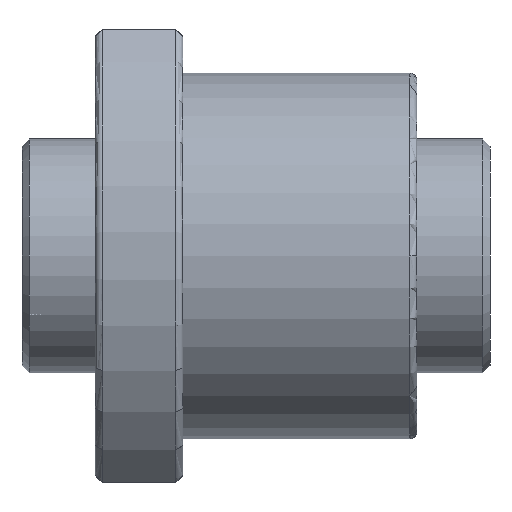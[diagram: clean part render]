
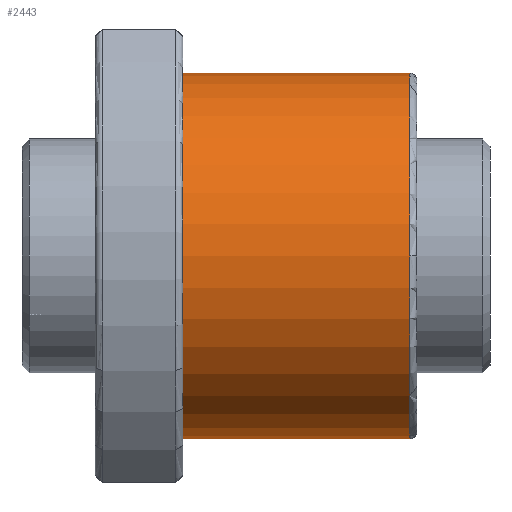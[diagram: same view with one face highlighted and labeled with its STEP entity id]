
A CAD part, front view. The second image highlights one B-rep face of the part: STEP entity #2443.
In plain terms, the highlighted cylindrical face has radius 25 mm (diameter 50 mm), a partial arc.
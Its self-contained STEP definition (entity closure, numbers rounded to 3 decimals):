
#160 = CARTESIAN_POINT ( 'NONE',  ( 12., 0., 25. ) ) ;
#240 = EDGE_CURVE ( 'NONE', #944, #2638, #1557, .T. ) ;
#269 = AXIS2_PLACEMENT_3D ( 'NONE', #4912, #4070, #1077 ) ;
#391 = LINE ( 'NONE', #831, #5341 ) ;
#467 = CIRCLE ( 'NONE', #269, 25. ) ;
#471 = AXIS2_PLACEMENT_3D ( 'NONE', #4168, #3788, #1264 ) ;
#614 = CIRCLE ( 'NONE', #471, 25. ) ;
#646 = DIRECTION ( 'NONE',  ( -1., 0., 0. ) ) ;
#720 = ORIENTED_EDGE ( 'NONE', *, *, #2714, .T. ) ;
#831 = CARTESIAN_POINT ( 'NONE',  ( 44., 0., -25. ) ) ;
#891 = ORIENTED_EDGE ( 'NONE', *, *, #5016, .F. ) ;
#907 = VECTOR ( 'NONE', #646, 1000. ) ;
#944 = VERTEX_POINT ( 'NONE', #1163 ) ;
#992 = DIRECTION ( 'NONE',  ( -1., 0., 0. ) ) ;
#1077 = DIRECTION ( 'NONE',  ( 0., 0., 1. ) ) ;
#1163 = CARTESIAN_POINT ( 'NONE',  ( 12., 0., -25. ) ) ;
#1176 = AXIS2_PLACEMENT_3D ( 'NONE', #1830, #992, #3536 ) ;
#1179 = ORIENTED_EDGE ( 'NONE', *, *, #240, .F. ) ;
#1223 = EDGE_LOOP ( 'NONE', ( #891, #720, #3789, #2232, #1179 ) ) ;
#1264 = DIRECTION ( 'NONE',  ( 0., 0., 1. ) ) ;
#1399 = CYLINDRICAL_SURFACE ( 'NONE', #2364, 25. ) ;
#1557 = CIRCLE ( 'NONE', #1176, 25. ) ;
#1671 = EDGE_CURVE ( 'NONE', #3906, #4372, #614, .T. ) ;
#1830 = CARTESIAN_POINT ( 'NONE',  ( 12., 0., 0. ) ) ;
#2059 = FACE_OUTER_BOUND ( 'NONE', #1223, .T. ) ;
#2232 = ORIENTED_EDGE ( 'NONE', *, *, #4199, .T. ) ;
#2364 = AXIS2_PLACEMENT_3D ( 'NONE', #3376, #3822, #5424 ) ;
#2443 = ADVANCED_FACE ( 'NONE', ( #2059 ), #1399, .T. ) ;
#2542 = DIRECTION ( 'NONE',  ( -1., 0., 0. ) ) ;
#2638 = VERTEX_POINT ( 'NONE', #160 ) ;
#2714 = EDGE_CURVE ( 'NONE', #3871, #3906, #467, .T. ) ;
#2878 = CARTESIAN_POINT ( 'NONE',  ( 43., -25., 0. ) ) ;
#3164 = LINE ( 'NONE', #5253, #907 ) ;
#3376 = CARTESIAN_POINT ( 'NONE',  ( 44., 0., 0. ) ) ;
#3536 = DIRECTION ( 'NONE',  ( 0., 0., 1. ) ) ;
#3788 = DIRECTION ( 'NONE',  ( -1., 0., 0. ) ) ;
#3789 = ORIENTED_EDGE ( 'NONE', *, *, #1671, .T. ) ;
#3822 = DIRECTION ( 'NONE',  ( -1., 0., 0. ) ) ;
#3871 = VERTEX_POINT ( 'NONE', #4092 ) ;
#3906 = VERTEX_POINT ( 'NONE', #2878 ) ;
#4070 = DIRECTION ( 'NONE',  ( -1., 0., 0. ) ) ;
#4092 = CARTESIAN_POINT ( 'NONE',  ( 43., 0., -25. ) ) ;
#4168 = CARTESIAN_POINT ( 'NONE',  ( 43., 0., 0. ) ) ;
#4199 = EDGE_CURVE ( 'NONE', #4372, #2638, #3164, .T. ) ;
#4372 = VERTEX_POINT ( 'NONE', #4381 ) ;
#4381 = CARTESIAN_POINT ( 'NONE',  ( 43., 0., 25. ) ) ;
#4912 = CARTESIAN_POINT ( 'NONE',  ( 43., 0., 0. ) ) ;
#5016 = EDGE_CURVE ( 'NONE', #3871, #944, #391, .T. ) ;
#5253 = CARTESIAN_POINT ( 'NONE',  ( 44., 0., 25. ) ) ;
#5341 = VECTOR ( 'NONE', #2542, 1000. ) ;
#5424 = DIRECTION ( 'NONE',  ( 0., 0., 1. ) ) ;
